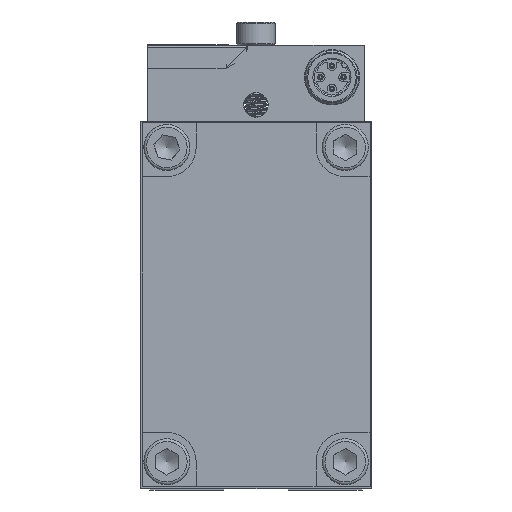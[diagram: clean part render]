
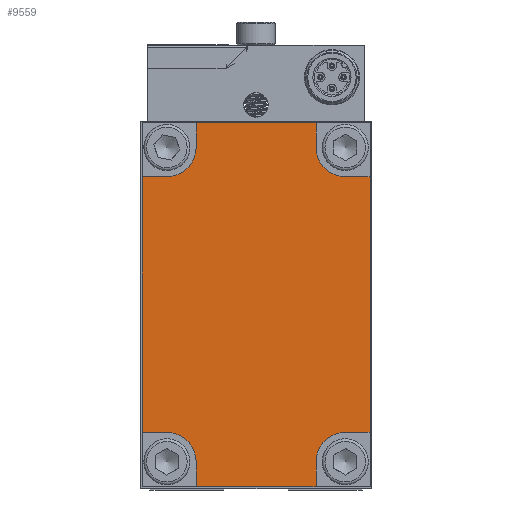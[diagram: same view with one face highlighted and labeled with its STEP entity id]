
A CAD part, left-side view. The second image highlights one B-rep face of the part: STEP entity #9559.
In plain terms, the highlighted planar face has unit normal (-1, 0, 0).
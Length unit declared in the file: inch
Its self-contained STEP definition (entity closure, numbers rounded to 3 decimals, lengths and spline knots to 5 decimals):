
#398=PLANE('',#10475);
#848=FACE_OUTER_BOUND('',#1389,.T.);
#1389=EDGE_LOOP('',(#8076,#8077,#8078,#8079,#8080,#8081,#8082,#8083,#8084,
#8085,#8086,#8087,#8088,#8089,#8090,#8091));
#1893=CIRCLE('',#10476,0.25);
#1894=CIRCLE('',#10477,0.25);
#1895=CIRCLE('',#10478,0.25);
#1896=CIRCLE('',#10479,0.25);
#2682=LINE('',#21264,#3378);
#2683=LINE('',#21266,#3379);
#2684=LINE('',#21268,#3380);
#2685=LINE('',#21272,#3381);
#2686=LINE('',#21274,#3382);
#2687=LINE('',#21276,#3383);
#2688=LINE('',#21280,#3384);
#2689=LINE('',#21282,#3385);
#2690=LINE('',#21284,#3386);
#2691=LINE('',#21288,#3387);
#2692=LINE('',#21290,#3388);
#2693=LINE('',#21292,#3389);
#3378=VECTOR('',#12836,0.3937);
#3379=VECTOR('',#12837,0.3937);
#3380=VECTOR('',#12838,0.3937);
#3381=VECTOR('',#12841,0.3937);
#3382=VECTOR('',#12842,0.3937);
#3383=VECTOR('',#12843,0.3937);
#3384=VECTOR('',#12846,0.3937);
#3385=VECTOR('',#12847,0.3937);
#3386=VECTOR('',#12848,0.3937);
#3387=VECTOR('',#12851,0.3937);
#3388=VECTOR('',#12852,0.3937);
#3389=VECTOR('',#12853,0.3937);
#4288=VERTEX_POINT('',#21262);
#4289=VERTEX_POINT('',#21263);
#4290=VERTEX_POINT('',#21265);
#4291=VERTEX_POINT('',#21267);
#4292=VERTEX_POINT('',#21269);
#4293=VERTEX_POINT('',#21271);
#4294=VERTEX_POINT('',#21273);
#4295=VERTEX_POINT('',#21275);
#4296=VERTEX_POINT('',#21277);
#4297=VERTEX_POINT('',#21279);
#4298=VERTEX_POINT('',#21281);
#4299=VERTEX_POINT('',#21283);
#4300=VERTEX_POINT('',#21285);
#4301=VERTEX_POINT('',#21287);
#4302=VERTEX_POINT('',#21289);
#4303=VERTEX_POINT('',#21291);
#5579=EDGE_CURVE('',#4288,#4289,#2682,.T.);
#5580=EDGE_CURVE('',#4289,#4290,#2683,.T.);
#5581=EDGE_CURVE('',#4290,#4291,#2684,.T.);
#5582=EDGE_CURVE('',#4291,#4292,#1893,.T.);
#5583=EDGE_CURVE('',#4292,#4293,#2685,.T.);
#5584=EDGE_CURVE('',#4293,#4294,#2686,.T.);
#5585=EDGE_CURVE('',#4294,#4295,#2687,.T.);
#5586=EDGE_CURVE('',#4295,#4296,#1894,.T.);
#5587=EDGE_CURVE('',#4296,#4297,#2688,.T.);
#5588=EDGE_CURVE('',#4297,#4298,#2689,.T.);
#5589=EDGE_CURVE('',#4298,#4299,#2690,.T.);
#5590=EDGE_CURVE('',#4299,#4300,#1895,.T.);
#5591=EDGE_CURVE('',#4300,#4301,#2691,.T.);
#5592=EDGE_CURVE('',#4301,#4302,#2692,.T.);
#5593=EDGE_CURVE('',#4302,#4303,#2693,.T.);
#5594=EDGE_CURVE('',#4303,#4288,#1896,.T.);
#8076=ORIENTED_EDGE('',*,*,#5579,.T.);
#8077=ORIENTED_EDGE('',*,*,#5580,.T.);
#8078=ORIENTED_EDGE('',*,*,#5581,.T.);
#8079=ORIENTED_EDGE('',*,*,#5582,.T.);
#8080=ORIENTED_EDGE('',*,*,#5583,.T.);
#8081=ORIENTED_EDGE('',*,*,#5584,.T.);
#8082=ORIENTED_EDGE('',*,*,#5585,.T.);
#8083=ORIENTED_EDGE('',*,*,#5586,.T.);
#8084=ORIENTED_EDGE('',*,*,#5587,.T.);
#8085=ORIENTED_EDGE('',*,*,#5588,.T.);
#8086=ORIENTED_EDGE('',*,*,#5589,.T.);
#8087=ORIENTED_EDGE('',*,*,#5590,.T.);
#8088=ORIENTED_EDGE('',*,*,#5591,.T.);
#8089=ORIENTED_EDGE('',*,*,#5592,.T.);
#8090=ORIENTED_EDGE('',*,*,#5593,.T.);
#8091=ORIENTED_EDGE('',*,*,#5594,.T.);
#9559=ADVANCED_FACE('',(#848),#398,.F.);
#10475=AXIS2_PLACEMENT_3D('',#21261,#12834,#12835);
#10476=AXIS2_PLACEMENT_3D('',#21270,#12839,#12840);
#10477=AXIS2_PLACEMENT_3D('',#21278,#12844,#12845);
#10478=AXIS2_PLACEMENT_3D('',#21286,#12849,#12850);
#10479=AXIS2_PLACEMENT_3D('',#21293,#12854,#12855);
#12834=DIRECTION('center_axis',(1.,0.,0.));
#12835=DIRECTION('ref_axis',(0.,1.,0.));
#12836=DIRECTION('',(0.,1.,0.));
#12837=DIRECTION('',(0.,0.,-1.));
#12838=DIRECTION('',(0.,-1.,0.));
#12839=DIRECTION('center_axis',(1.,0.,0.));
#12840=DIRECTION('ref_axis',(0.,-1.,0.));
#12841=DIRECTION('',(0.,0.,-1.));
#12842=DIRECTION('',(0.,-1.,0.));
#12843=DIRECTION('',(0.,0.,1.));
#12844=DIRECTION('center_axis',(1.,0.,0.));
#12845=DIRECTION('ref_axis',(0.,0.,1.));
#12846=DIRECTION('',(0.,-1.,0.));
#12847=DIRECTION('',(0.,0.,1.));
#12848=DIRECTION('',(0.,1.,0.));
#12849=DIRECTION('center_axis',(1.,0.,0.));
#12850=DIRECTION('ref_axis',(0.,1.,0.));
#12851=DIRECTION('',(0.,0.,1.));
#12852=DIRECTION('',(0.,1.,0.));
#12853=DIRECTION('',(0.,0.,-1.));
#12854=DIRECTION('center_axis',(1.,0.,0.));
#12855=DIRECTION('ref_axis',(0.,0.,
-1.));
#21261=CARTESIAN_POINT('Origin',(-0.903,0.984,10.02762));
#21262=CARTESIAN_POINT('',(-0.903,1.7465,11.12062));
#21263=CARTESIAN_POINT('',(-0.903,1.9585,11.12062));
#21264=CARTESIAN_POINT('',(-0.903,1.36525,11.12062));
#21265=CARTESIAN_POINT('',(-0.903,1.9585,8.93462));
#21266=CARTESIAN_POINT('',(-0.903,1.9585,11.58262));
#21267=CARTESIAN_POINT('',(-0.903,1.7465,8.93462));
#21268=CARTESIAN_POINT('',(-0.903,1.47125,8.93462));
#21269=CARTESIAN_POINT('',(-0.903,1.4965,8.68462));
#21270=CARTESIAN_POINT('Origin',(-0.903,1.7465,8.68462));
#21271=CARTESIAN_POINT('',(-0.903,1.4965,8.47262));
#21272=CARTESIAN_POINT('',(-0.903,1.4965,9.35612));
#21273=CARTESIAN_POINT('',(-0.903,0.4715,8.47262));
#21274=CARTESIAN_POINT('',(-0.903,1.9585,8.47262));
#21275=CARTESIAN_POINT('',(-0.903,0.4715,8.68462));
#21276=CARTESIAN_POINT('',(-0.903,0.4715,9.25012));
#21277=CARTESIAN_POINT('',(-0.903,0.2215,8.93462));
#21278=CARTESIAN_POINT('Origin',(-0.903,0.2215,8.68462));
#21279=CARTESIAN_POINT('',(-0.903,0.0095,8.93462));
#21280=CARTESIAN_POINT('',(-0.903,0.60275,8.93462));
#21281=CARTESIAN_POINT('',(-0.903,0.0095,11.12062));
#21282=CARTESIAN_POINT('',(-0.903,0.0095,8.47262));
#21283=CARTESIAN_POINT('',(-0.903,0.2215,11.12062));
#21284=CARTESIAN_POINT('',(-0.903,0.49675,11.12062));
#21285=CARTESIAN_POINT('',(-0.903,0.4715,11.37062));
#21286=CARTESIAN_POINT('Origin',(-0.903,0.2215,11.37062));
#21287=CARTESIAN_POINT('',(-0.903,0.4715,11.58262));
#21288=CARTESIAN_POINT('',(-0.903,0.4715,10.69912));
#21289=CARTESIAN_POINT('',(-0.903,1.4965,11.58262));
#21290=CARTESIAN_POINT('',(-0.903,0.0095,11.58262));
#21291=CARTESIAN_POINT('',(-0.903,1.4965,11.37062));
#21292=CARTESIAN_POINT('',(-0.903,1.4965,10.80512));
#21293=CARTESIAN_POINT('Origin',(-0.903,1.7465,11.37062));
